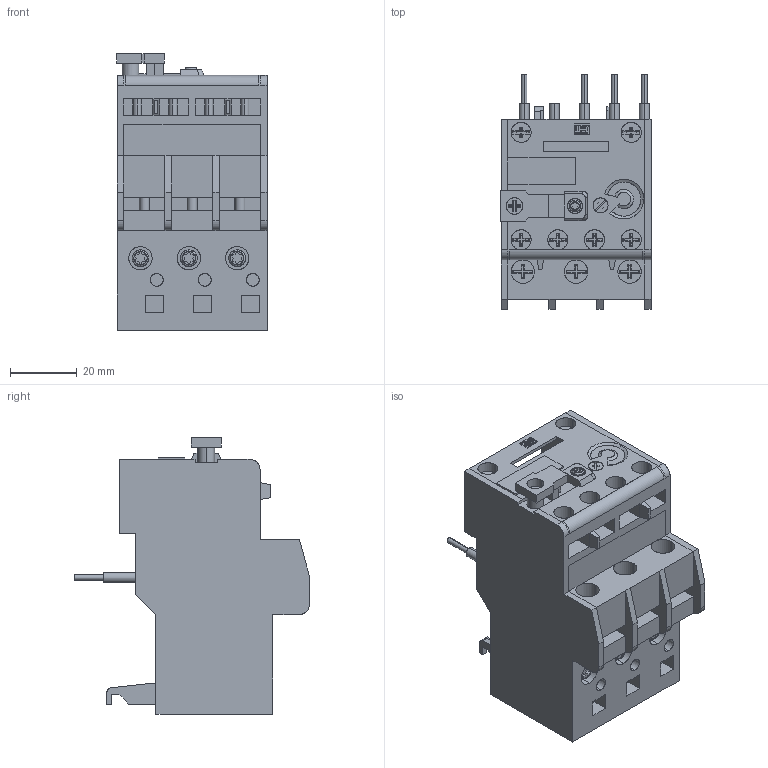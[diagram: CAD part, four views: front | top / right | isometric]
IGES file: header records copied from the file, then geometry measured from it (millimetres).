
Start section: SolidWorks IGES file using analytic representation for surfaces
Global section: file name: Q:\GROUPS\BR_SC_JGS_WA_TECNICO\ENG\Usuarios\Rodrigob\conversão\Reles de Sobrecarga\Produto\RW17-1D2\RW17-1D2.IGS; native system: SolidWorks 2012; preprocessor: SolidWorks 2012; author: rodrigob; date: 130405.083855; units: millimetre
Bounding box: 45.1 x 70.4 x 82.9 mm (x, y, z)
Surface area: 26282 mm2 (no closed solid volume)
Topology: 0 solids, 0 shells, 615 faces, 5953 edges, 5946 vertices
Faces by surface type: bspline 502, revolution 113
